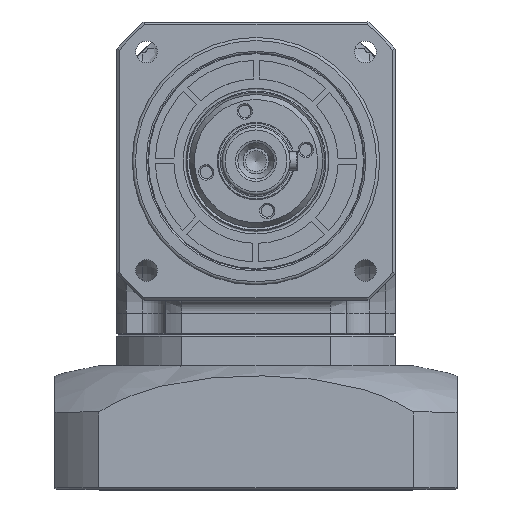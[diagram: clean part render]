
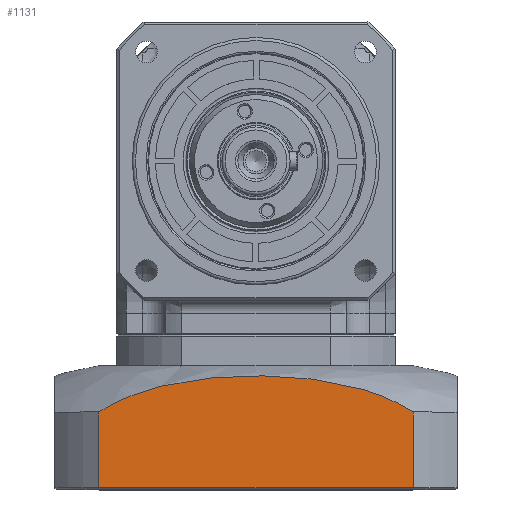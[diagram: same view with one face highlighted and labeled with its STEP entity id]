
A CAD part, top view. The second image highlights one B-rep face of the part: STEP entity #1131.
In plain terms, the highlighted planar face has unit normal (0, 0, 1).
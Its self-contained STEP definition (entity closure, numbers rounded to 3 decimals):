
#353=PLANE('',#11439);
#676=FACE_OUTER_BOUND('',#4638,.T.);
#1131=ADVANCED_FACE('',(#676),#353,.T.);
#2751=LINE('',#16454,#3343);
#2754=LINE('',#16464,#3346);
#2763=LINE('',#16583,#3355);
#3343=VECTOR('',#12902,1.);
#3346=VECTOR('',#12911,1.);
#3355=VECTOR('',#13002,1.);
#4638=EDGE_LOOP('',(#5859,#5860,#5861,#5862));
#5859=ORIENTED_EDGE('',*,*,#9746,.T.);
#5860=ORIENTED_EDGE('',*,*,#9783,.T.);
#5861=ORIENTED_EDGE('',*,*,#9741,.T.);
#5862=ORIENTED_EDGE('',*,*,#9736,.T.);
#8659=VERTEX_POINT('',#16405);
#8660=VERTEX_POINT('',#16418);
#8663=VERTEX_POINT('',#16455);
#8666=VERTEX_POINT('',#16463);
#9736=EDGE_CURVE('',#8660,#8659,#11130,.T.);
#9741=EDGE_CURVE('',#8663,#8660,#2751,.T.);
#9746=EDGE_CURVE('',#8659,#8666,#2754,.T.);
#9783=EDGE_CURVE('',#8666,#8663,#2763,.T.);
#11130=B_SPLINE_CURVE_WITH_KNOTS('',3,(#16406,#16407,#16408,#16409,#16410,
#16411,#16412,#16413,#16414,#16415,#16416,#16417),.UNSPECIFIED.,.F.,.F.,
(4,2,2,2,2,4),(0.,0.25,0.5,0.75,0.875,1.),.UNSPECIFIED.);
#11439=AXIS2_PLACEMENT_3D('',#16584,#13003,#13004);
#12902=DIRECTION('',(0.,1.,0.));
#12911=DIRECTION('',(0.,-1.,0.));
#13002=DIRECTION('',(1.,0.,0.));
#13003=DIRECTION('',(0.,0.,1.));
#13004=DIRECTION('',(-1.,0.,0.));
#16405=CARTESIAN_POINT('',(-50.806,-25.,7.));
#16406=CARTESIAN_POINT('',(50.806,-25.,7.));
#16407=CARTESIAN_POINT('',(43.27,-20.214,7.));
#16408=CARTESIAN_POINT('',(34.921,-17.399,7.));
#16409=CARTESIAN_POINT('',(17.556,-13.939,7.));
#16410=CARTESIAN_POINT('',(8.822,-13.317,7.));
#16411=CARTESIAN_POINT('',(-8.704,-13.31,7.));
#16412=CARTESIAN_POINT('',(-17.585,-13.949,7.));
#16413=CARTESIAN_POINT('',(-30.492,-16.514,7.));
#16414=CARTESIAN_POINT('',(-34.731,-17.646,7.));
#16415=CARTESIAN_POINT('',(-43.026,-20.699,7.));
#16416=CARTESIAN_POINT('',(-47.053,-22.616,7.));
#16417=CARTESIAN_POINT('',(-50.806,-25.,7.));
#16418=CARTESIAN_POINT('',(50.806,-25.,7.));
#16454=CARTESIAN_POINT('',(50.806,-26.265,7.));
#16455=CARTESIAN_POINT('',(50.806,-49.5,7.));
#16463=CARTESIAN_POINT('',(-50.806,-49.5,7.));
#16464=CARTESIAN_POINT('',(-50.806,-26.265,7.));
#16583=CARTESIAN_POINT('',(50.806,-49.5,7.));
#16584=CARTESIAN_POINT('',(65.,-50.,7.));
